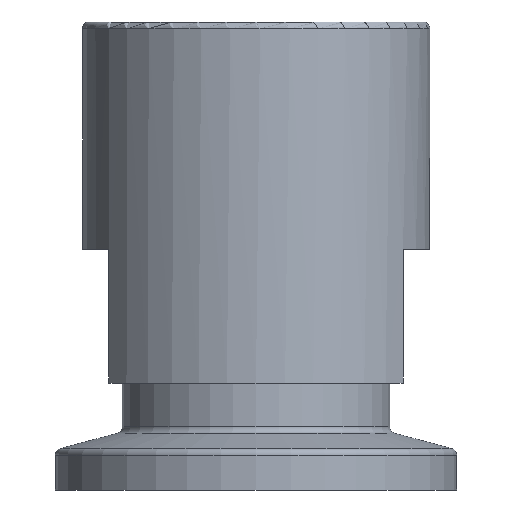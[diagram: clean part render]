
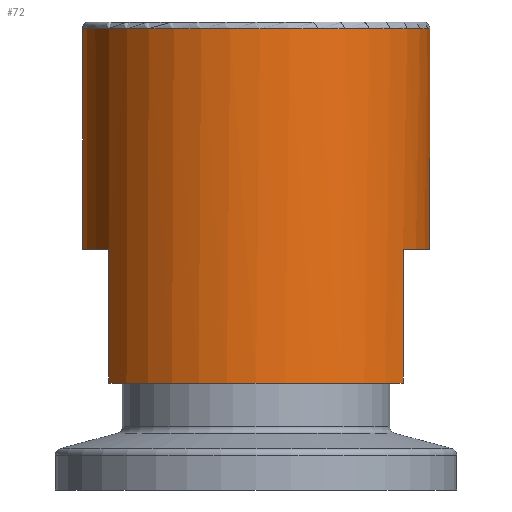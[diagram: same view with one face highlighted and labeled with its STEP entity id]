
A CAD part, front view. The second image highlights one B-rep face of the part: STEP entity #72.
In plain terms, the highlighted cylindrical face has radius 13 mm (diameter 26 mm), a full revolution.
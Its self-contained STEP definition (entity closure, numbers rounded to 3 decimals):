
#72 = ADVANCED_FACE( '', ( #155, #156 ), #157, .T. );
#155 = FACE_OUTER_BOUND( '', #238, .T. );
#156 = FACE_OUTER_BOUND( '', #239, .T. );
#157 = CYLINDRICAL_SURFACE( '', #240, 13. );
#238 = EDGE_LOOP( '', ( #350 ) );
#239 = EDGE_LOOP( '', ( #351, #352, #353, #354, #355, #356, #357, #358 ) );
#240 = AXIS2_PLACEMENT_3D( '', #359, #360, #361 );
#350 = ORIENTED_EDGE( '', *, *, #416, .T. );
#351 = ORIENTED_EDGE( '', *, *, #395, .F. );
#352 = ORIENTED_EDGE( '', *, *, #425, .F. );
#353 = ORIENTED_EDGE( '', *, *, #432, .F. );
#354 = ORIENTED_EDGE( '', *, *, #433, .F. );
#355 = ORIENTED_EDGE( '', *, *, #434, .F. );
#356 = ORIENTED_EDGE( '', *, *, #423, .F. );
#357 = ORIENTED_EDGE( '', *, *, #397, .F. );
#358 = ORIENTED_EDGE( '', *, *, #407, .F. );
#359 = CARTESIAN_POINT( '', ( 0., 0., 54. ) );
#360 = DIRECTION( '', ( 0., 0., 1. ) );
#361 = DIRECTION( '', ( -1., 0., 0. ) );
#395 = EDGE_CURVE( '', #442, #443, #444, .F. );
#397 = EDGE_CURVE( '', #445, #447, #448, .T. );
#407 = EDGE_CURVE( '', #443, #445, #462, .F. );
#416 = EDGE_CURVE( '', #476, #476, #477, .F. );
#423 = EDGE_CURVE( '', #447, #487, #488, .T. );
#425 = EDGE_CURVE( '', #489, #442, #491, .T. );
#432 = EDGE_CURVE( '', #500, #489, #501, .T. );
#433 = EDGE_CURVE( '', #502, #500, #503, .F. );
#434 = EDGE_CURVE( '', #487, #502, #504, .F. );
#442 = VERTEX_POINT( '', #512 );
#443 = VERTEX_POINT( '', #513 );
#444 = LINE( '', #514, #515 );
#445 = VERTEX_POINT( '', #516 );
#447 = VERTEX_POINT( '', #519 );
#448 = LINE( '', #520, #521 );
#462 = CIRCLE( '', #536, 13. );
#476 = VERTEX_POINT( '', #550 );
#477 = CIRCLE( '', #551, 13. );
#487 = VERTEX_POINT( '', #561 );
#488 = CIRCLE( '', #562, 13. );
#489 = VERTEX_POINT( '', #563 );
#491 = CIRCLE( '', #566, 13. );
#500 = VERTEX_POINT( '', #575 );
#501 = LINE( '', #576, #577 );
#502 = VERTEX_POINT( '', #578 );
#503 = CIRCLE( '', #579, 13. );
#504 = LINE( '', #580, #581 );
#512 = CARTESIAN_POINT( '', ( 11., 6.928, 8. ) );
#513 = CARTESIAN_POINT( '', ( 11., 6.928, 18. ) );
#514 = CARTESIAN_POINT( '', ( 11., 6.928, 54. ) );
#515 = VECTOR( '', #589, 1000. );
#516 = CARTESIAN_POINT( '', ( 11., -6.928, 18. ) );
#519 = CARTESIAN_POINT( '', ( 11., -6.928, 8. ) );
#520 = CARTESIAN_POINT( '', ( 11., -6.928, 54. ) );
#521 = VECTOR( '', #591, 1000. );
#536 = AXIS2_PLACEMENT_3D( '', #605, #606, #607 );
#550 = CARTESIAN_POINT( '', ( 13., 0., 34.5 ) );
#551 = AXIS2_PLACEMENT_3D( '', #623, #624, #625 );
#561 = CARTESIAN_POINT( '', ( -11., -6.928, 8. ) );
#562 = AXIS2_PLACEMENT_3D( '', #635, #636, #637 );
#563 = CARTESIAN_POINT( '', ( -11., 6.928, 8. ) );
#566 = AXIS2_PLACEMENT_3D( '', #639, #640, #641 );
#575 = CARTESIAN_POINT( '', ( -11., 6.928, 18. ) );
#576 = CARTESIAN_POINT( '', ( -11., 6.928, 54. ) );
#577 = VECTOR( '', #648, 1000. );
#578 = CARTESIAN_POINT( '', ( -11., -6.928, 18. ) );
#579 = AXIS2_PLACEMENT_3D( '', #649, #650, #651 );
#580 = CARTESIAN_POINT( '', ( -11., -6.928, 54. ) );
#581 = VECTOR( '', #652, 1000. );
#589 = DIRECTION( '', ( 0., 0., -1. ) );
#591 = DIRECTION( '', ( 0., 0., -1. ) );
#605 = CARTESIAN_POINT( '', ( 0., 0., 18. ) );
#606 = DIRECTION( '', ( 0., 0., 1. ) );
#607 = DIRECTION( '', ( 1., 0., 0. ) );
#623 = CARTESIAN_POINT( '', ( 0., 0., 34.5 ) );
#624 = DIRECTION( '', ( 0., 0., 1. ) );
#625 = DIRECTION( '', ( 1., 0., 0. ) );
#635 = CARTESIAN_POINT( '', ( 0., 0., 8. ) );
#636 = DIRECTION( '', ( 0., 0., -1. ) );
#637 = DIRECTION( '', ( -1., 0., 0. ) );
#639 = CARTESIAN_POINT( '', ( 0., 0., 8. ) );
#640 = DIRECTION( '', ( 0., 0., -1. ) );
#641 = DIRECTION( '', ( -1., 0., 0. ) );
#648 = DIRECTION( '', ( 0., 0., -1. ) );
#649 = CARTESIAN_POINT( '', ( 0., 0., 18. ) );
#650 = DIRECTION( '', ( 0., 0., 1. ) );
#651 = DIRECTION( '', ( 1., 0., 0. ) );
#652 = DIRECTION( '', ( 0., 0., -1. ) );
